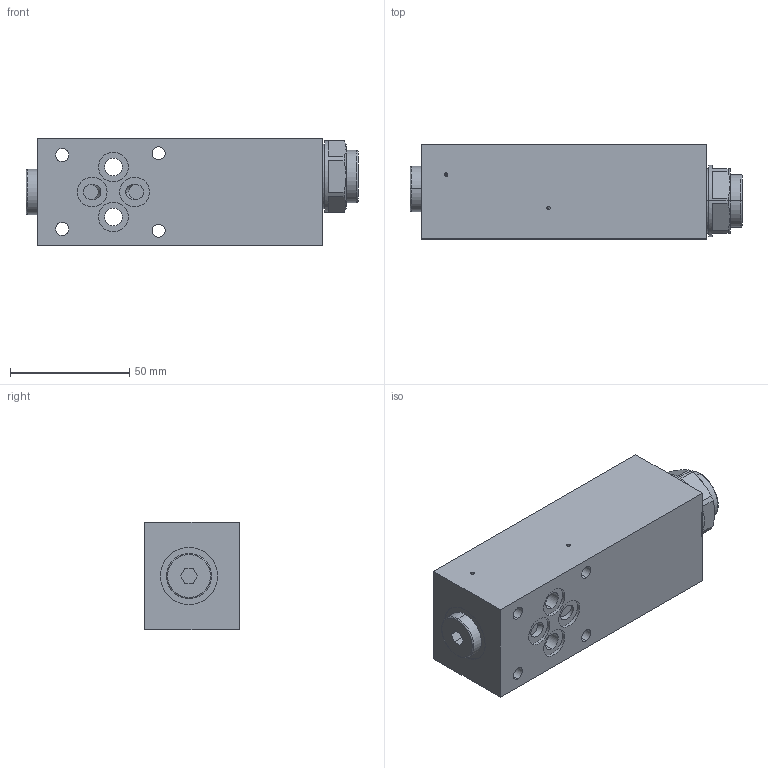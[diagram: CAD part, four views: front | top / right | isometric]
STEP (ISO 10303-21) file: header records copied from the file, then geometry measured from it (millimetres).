
FILE_DESCRIPTION (( 'STEP AP214' ), '1' );
FILE_NAME ('UDSFA06.STEP', '2017-04-13T12:30:09', ( '' ), ( '' ), 'SwSTEP 2.0', 'SolidWorks 2016', '' );
FILE_SCHEMA (( 'AUTOMOTIVE_DESIGN' ));
Length unit declared in the file: millimetre
Products named in the file (1): UDSFA06
Bounding box: 139.4 x 39.5 x 45 mm (x, y, z)
Volume: 212951.9 mm3; surface area: 32392 mm2
Topology: 4 solids, 9 shells, 216 faces, 496 edges, 315 vertices
Faces by surface type: cylinder 91, plane 64, cone 39, sphere 18, torus 4
Entity records: 8510 total; most frequent: CARTESIAN_POINT 1168, DIRECTION 1141, ORIENTED_EDGE 976, EDGE_CURVE 488, AXIS2_PLACEMENT_3D 472, VERTEX_POINT 315, EDGE_LOOP 261, CIRCLE 255
